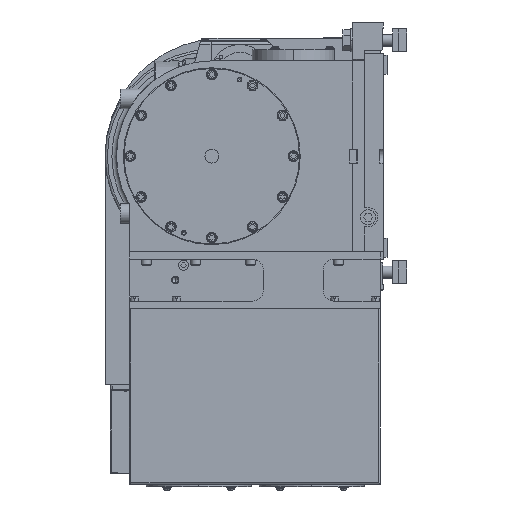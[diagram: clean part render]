
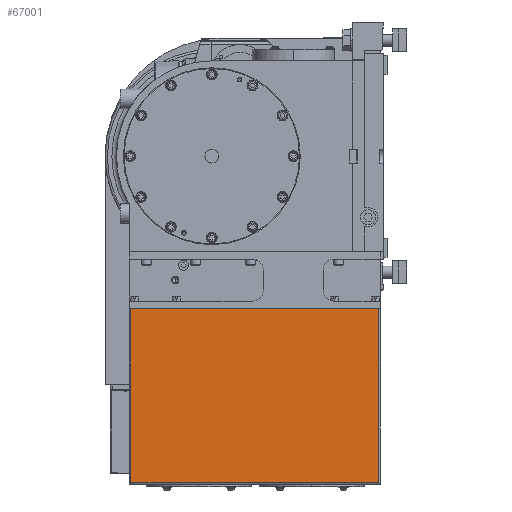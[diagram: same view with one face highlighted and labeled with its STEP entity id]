
A CAD part, left-side view. The second image highlights one B-rep face of the part: STEP entity #67001.
In plain terms, the highlighted planar face has unit normal (-1, 0, 0).
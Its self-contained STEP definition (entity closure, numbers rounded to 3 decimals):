
#3119 = AXIS2_PLACEMENT_3D ( 'NONE', #120196, #145476, #71785 ) ;
#5062 = CARTESIAN_POINT ( 'NONE',  ( 0., 327., -230. ) ) ;
#10446 = LINE ( 'NONE', #65980, #106907 ) ;
#20753 = EDGE_CURVE ( 'NONE', #107088, #107614, #88753, .T. ) ;
#21963 = CARTESIAN_POINT ( 'NONE',  ( 0., 327., -228. ) ) ;
#23981 = CARTESIAN_POINT ( 'NONE',  ( 0., 0., 0. ) ) ;
#31025 = FACE_OUTER_BOUND ( 'NONE', #151192, .T. ) ;
#34628 = EDGE_CURVE ( 'NONE', #107088, #71153, #52238, .T. ) ;
#38919 = EDGE_CURVE ( 'NONE', #71153, #147516, #10446, .T. ) ;
#39096 = CARTESIAN_POINT ( 'NONE',  ( 0., 2., -230. ) ) ;
#41404 = EDGE_CURVE ( 'NONE', #147516, #107614, #151829, .T. ) ;
#52238 = LINE ( 'NONE', #5062, #81138 ) ;
#59411 = PLANE ( 'NONE',  #3119 ) ;
#65980 = CARTESIAN_POINT ( 'NONE',  ( 0., 0., -228. ) ) ;
#67001 = ADVANCED_FACE ( 'NONE', ( #31025 ), #59411, .T. ) ;
#69824 = CARTESIAN_POINT ( 'NONE',  ( 0., 2., -228. ) ) ;
#71153 = VERTEX_POINT ( 'NONE', #21963 ) ;
#71785 = DIRECTION ( 'NONE',  ( 0., 0., 1. ) ) ;
#81138 = VECTOR ( 'NONE', #115802, 1000. ) ;
#86044 = ORIENTED_EDGE ( 'NONE', *, *, #34628, .T. ) ;
#88753 = LINE ( 'NONE', #23981, #154171 ) ;
#92179 = CARTESIAN_POINT ( 'NONE',  ( 0., 2., 0. ) ) ;
#97233 = ORIENTED_EDGE ( 'NONE', *, *, #41404, .T. ) ;
#102866 = ORIENTED_EDGE ( 'NONE', *, *, #20753, .F. ) ;
#106907 = VECTOR ( 'NONE', #151922, 1000. ) ;
#107088 = VERTEX_POINT ( 'NONE', #147939 ) ;
#107614 = VERTEX_POINT ( 'NONE', #92179 ) ;
#112836 = DIRECTION ( 'NONE',  ( 0., 0., 1. ) ) ;
#115802 = DIRECTION ( 'NONE',  ( 0., 0., -1. ) ) ;
#119196 = VECTOR ( 'NONE', #112836, 1000. ) ;
#120196 = CARTESIAN_POINT ( 'NONE',  ( 0., 0., -230. ) ) ;
#122391 = DIRECTION ( 'NONE',  ( 0., -1., 0. ) ) ;
#125501 = ORIENTED_EDGE ( 'NONE', *, *, #38919, .T. ) ;
#145476 = DIRECTION ( 'NONE',  ( -1., 0., 0. ) ) ;
#147516 = VERTEX_POINT ( 'NONE', #69824 ) ;
#147939 = CARTESIAN_POINT ( 'NONE',  ( 0., 327., 0. ) ) ;
#151192 = EDGE_LOOP ( 'NONE', ( #125501, #97233, #102866, #86044 ) ) ;
#151829 = LINE ( 'NONE', #39096, #119196 ) ;
#151922 = DIRECTION ( 'NONE',  ( 0., -1., 0. ) ) ;
#154171 = VECTOR ( 'NONE', #122391, 1000. ) ;
